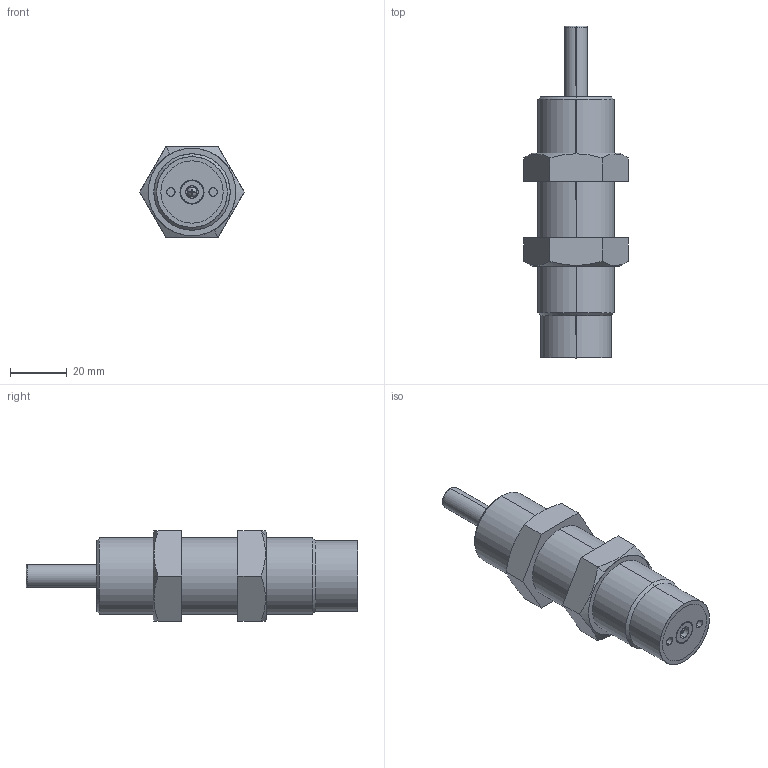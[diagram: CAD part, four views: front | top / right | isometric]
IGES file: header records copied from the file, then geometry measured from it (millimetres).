
Start section: SolidWorks IGES file using analytic representation for surfaces
Bounding box: 36.95 x 117.5 x 32 mm (x, y, z)
Surface area: 14215.5 mm2 (no closed solid volume)
Topology: 0 solids, 0 shells, 91 faces, 1477 edges, 1477 vertices
Faces by surface type: revolution 50, bspline 41
